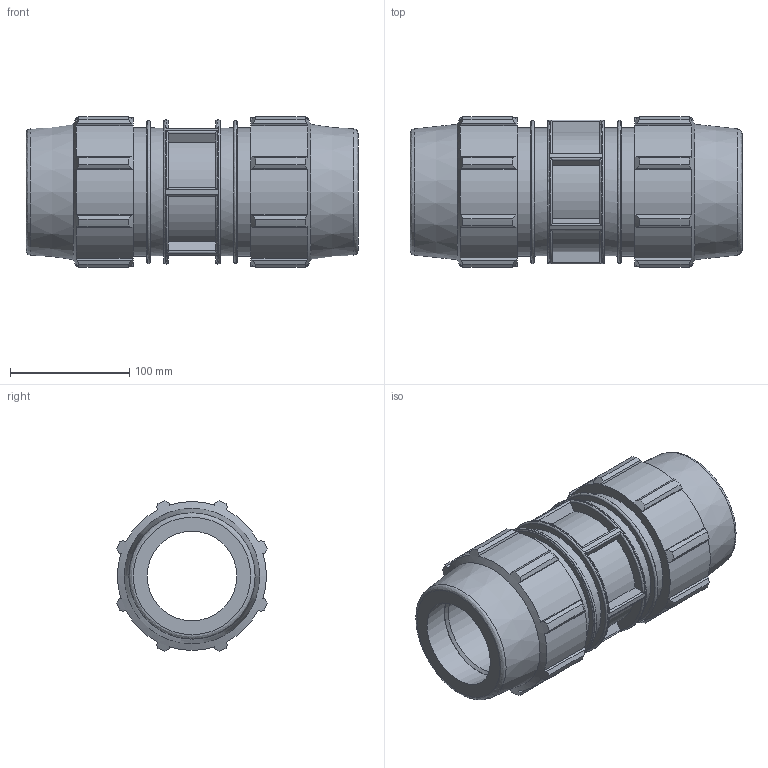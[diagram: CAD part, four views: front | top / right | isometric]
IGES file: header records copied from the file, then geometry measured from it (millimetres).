
Global section: file name: 076100075_186100075_0761060750A.ipt; native system: Autodesk Inventor 2015; preprocessor: unknown; author: KIM; date: 20180617.114134; units: millimetre
Bounding box: 278 x 126.08 x 126.08 mm (x, y, z)
Volume: 1641184 mm3; surface area: 211215.1 mm2
Topology: 1 solids, 1 shells, 202 faces, 567 edges, 382 vertices
Faces by surface type: plane 100, cylinder 55, revolution 25, cone 22
Full cylindrical faces by diameter (mm): 107.2 x4, 120.6 x1
